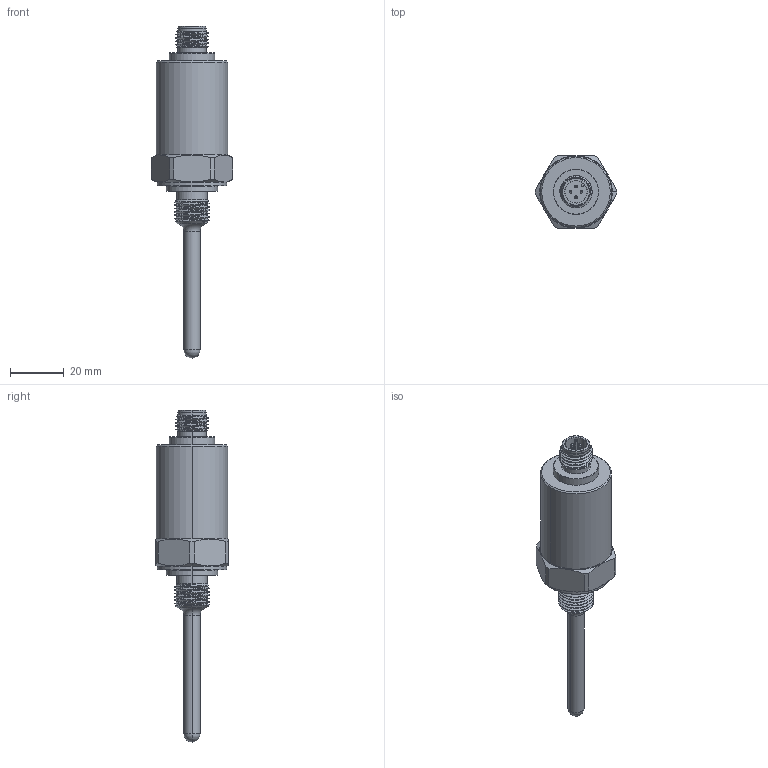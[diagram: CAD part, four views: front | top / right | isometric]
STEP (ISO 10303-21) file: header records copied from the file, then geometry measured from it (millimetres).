
FILE_DESCRIPTION (( 'STEP AP214' ), '1' );
FILE_NAME ('BTS1A52.STEP', '2025-03-11T07:27:10', ( '' ), ( '' ), 'SwSTEP 2.0', 'SolidWorks 2022', '' );
FILE_SCHEMA (( 'AUTOMOTIVE_DESIGN' ));
Length unit declared in the file: millimetre
Products named in the file (1): BTS1A52
Bounding box: 30.18 x 27 x 123.5 mm (x, y, z)
Volume: 30530.3 mm3; surface area: 7973.6 mm2
Topology: 1 solids, 1 shells, 149 faces, 354 edges, 212 vertices
Faces by surface type: cylinder 53, plane 34, cone 26, torus 20, sphere 10, bspline 6
Entity records: 6881 total; most frequent: CARTESIAN_POINT 3360, ORIENTED_EDGE 678, DIRECTION 641, EDGE_CURVE 339, AXIS2_PLACEMENT_3D 275, VERTEX_POINT 207, EDGE_LOOP 164, FACE_OUTER_BOUND 149
